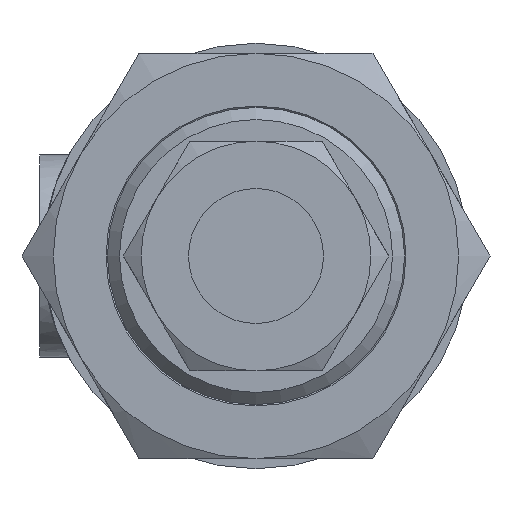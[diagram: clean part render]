
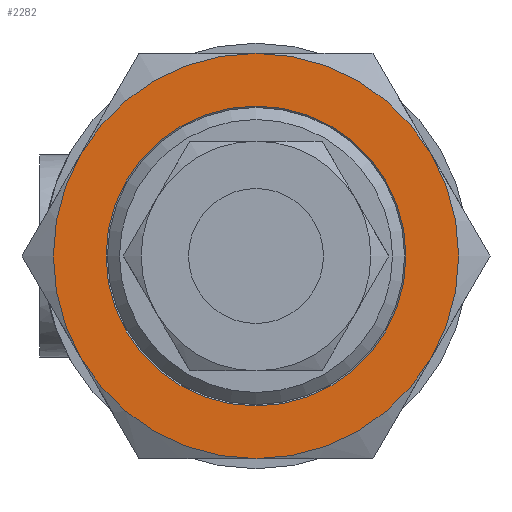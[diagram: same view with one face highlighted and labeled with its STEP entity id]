
A CAD part, front view. The second image highlights one B-rep face of the part: STEP entity #2282.
In plain terms, the highlighted planar face has unit normal (0, -1, 0) as drawn and (0, 0, -1) by its records, which use the part's own axes.
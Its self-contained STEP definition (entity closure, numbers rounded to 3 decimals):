
#1471=CARTESIAN_POINT('',(7.5,12.99,0.));
#1472=VERTEX_POINT('',#1471);
#1486=CARTESIAN_POINT('',(15.0,0.,0.));
#1487=VERTEX_POINT('',#1486);
#1501=CARTESIAN_POINT('',(0.0,0.0,0.0));
#1502=DIRECTION('',(0.0,0.0,-1.0));
#1503=DIRECTION('',(0.0,-1.0,0.0));
#1504=AXIS2_PLACEMENT_3D('',#1501,#1502,#1503);
#1505=CIRCLE('',#1504,15.);
#1506=EDGE_CURVE('',#1472,#1487,#1505,.T.);
#1518=CARTESIAN_POINT('',(-7.5,12.99,0.));
#1519=VERTEX_POINT('',#1518);
#1546=CARTESIAN_POINT('',(0.0,0.0,0.0));
#1547=DIRECTION('',(0.0,0.0,-1.0));
#1548=DIRECTION('',(0.0,-1.0,0.0));
#1549=AXIS2_PLACEMENT_3D('',#1546,#1547,#1548);
#1550=CIRCLE('',#1549,15.);
#1551=EDGE_CURVE('',#1519,#1472,#1550,.T.);
#1563=CARTESIAN_POINT('',(-15.0,0.0,0.));
#1564=VERTEX_POINT('',#1563);
#1591=CARTESIAN_POINT('',(0.0,0.0,0.0));
#1592=DIRECTION('',(0.0,0.0,-1.0));
#1593=DIRECTION('',(0.0,-1.0,0.0));
#1594=AXIS2_PLACEMENT_3D('',#1591,#1592,#1593);
#1595=CIRCLE('',#1594,15.);
#1596=EDGE_CURVE('',#1564,#1519,#1595,.T.);
#1621=CARTESIAN_POINT('',(-7.5,-12.99,0.));
#1622=VERTEX_POINT('',#1621);
#1623=CARTESIAN_POINT('',(0.0,0.0,0.0));
#1624=DIRECTION('',(0.0,0.0,-1.0));
#1625=DIRECTION('',(0.0,-1.0,0.0));
#1626=AXIS2_PLACEMENT_3D('',#1623,#1624,#1625);
#1627=CIRCLE('',#1626,15.);
#1628=EDGE_CURVE('',#1622,#1564,#1627,.T.);
#1666=CARTESIAN_POINT('',(7.5,-12.99,0.));
#1667=VERTEX_POINT('',#1666);
#1668=CARTESIAN_POINT('',(0.0,0.0,0.0));
#1669=DIRECTION('',(0.0,0.0,-1.0));
#1670=DIRECTION('',(0.0,-1.0,0.0));
#1671=AXIS2_PLACEMENT_3D('',#1668,#1669,#1670);
#1672=CIRCLE('',#1671,15.);
#1673=EDGE_CURVE('',#1667,#1622,#1672,.T.);
#1711=CARTESIAN_POINT('',(0.0,0.0,0.0));
#1712=DIRECTION('',(0.0,0.0,-1.0));
#1713=DIRECTION('',(0.0,-1.0,0.0));
#1714=AXIS2_PLACEMENT_3D('',#1711,#1712,#1713);
#1715=CIRCLE('',#1714,15.);
#1716=EDGE_CURVE('',#1487,#1667,#1715,.T.);
#2092=CARTESIAN_POINT('',(-11.1,0.0,0.0));
#2093=VERTEX_POINT('',#2092);
#2094=CARTESIAN_POINT('',(0.0,0.0,0.0));
#2095=DIRECTION('',(0.0,0.0,1.0));
#2096=DIRECTION('',(-1.0,0.0,0.0));
#2097=AXIS2_PLACEMENT_3D('',#2094,#2095,#2096);
#2098=CIRCLE('',#2097,11.1);
#2099=EDGE_CURVE('',#2093,#2093,#2098,.T.);
#2266=CARTESIAN_POINT('',(0.,0.,0.0));
#2267=DIRECTION('',(0.0,0.0,1.0));
#2268=DIRECTION('',(1.0,0.0,0.0));
#2269=AXIS2_PLACEMENT_3D('',#2266,#2267,#2268);
#2270=PLANE('',#2269);
#2271=ORIENTED_EDGE('',*,*,#1716,.T.);
#2272=ORIENTED_EDGE('',*,*,#1673,.T.);
#2273=ORIENTED_EDGE('',*,*,#1628,.T.);
#2274=ORIENTED_EDGE('',*,*,#1596,.T.);
#2275=ORIENTED_EDGE('',*,*,#1551,.T.);
#2276=ORIENTED_EDGE('',*,*,#1506,.T.);
#2277=EDGE_LOOP('',(#2271,#2272,#2273,#2274,#2275,#2276));
#2278=FACE_OUTER_BOUND('',#2277,.T.);
#2279=ORIENTED_EDGE('',*,*,#2099,.T.);
#2280=EDGE_LOOP('',(#2279));
#2281=FACE_BOUND('',#2280,.T.);
#2282=ADVANCED_FACE('',(#2278,#2281),#2270,.F.);
